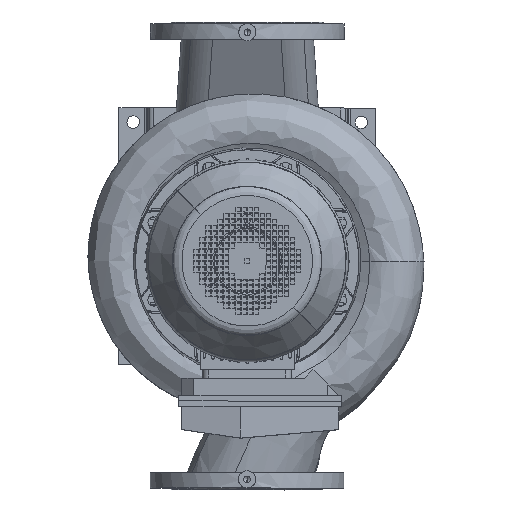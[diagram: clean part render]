
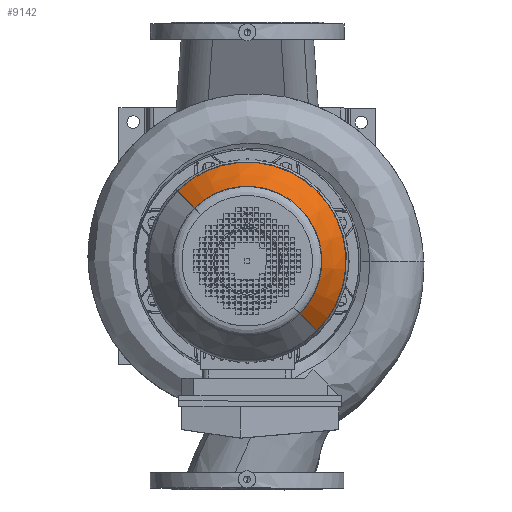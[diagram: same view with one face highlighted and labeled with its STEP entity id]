
A CAD part, top view. The second image highlights one B-rep face of the part: STEP entity #9142.
In plain terms, the highlighted conical face has half-angle 34.992 degrees and reference radius 125 mm.
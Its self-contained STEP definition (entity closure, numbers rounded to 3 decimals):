
#9142=ADVANCED_FACE('',(#22120),#22121,.T.);
#10838=EDGE_CURVE('',#25083,#25084,#25085,.T.);
#10840=EDGE_CURVE('',#25087,#25088,#25089,.T.);
#22120=FACE_OUTER_BOUND('',#41288,.T.);
#22121=CONICAL_SURFACE('',#41289,125.0,0.611);
#25083=VERTEX_POINT('',#44256);
#25084=VERTEX_POINT('',#44257);
#25085=CIRCLE('',#44258,173.885);
#25087=VERTEX_POINT('',#44261);
#25088=VERTEX_POINT('',#44262);
#25089=CIRCLE('',#44263,130.972);
#41288=EDGE_LOOP('',(#71022,#71023,#71024,#71025));
#41289=AXIS2_PLACEMENT_3D('',#71026,#71027,#71028);
#44256=CARTESIAN_POINT('',(173.885,0.,130.165));
#44257=CARTESIAN_POINT('',(-173.885,0.,130.165));
#44258=AXIS2_PLACEMENT_3D('',#79477,#79478,#79479);
#44261=CARTESIAN_POINT('',(-130.972,0.,191.469));
#44262=CARTESIAN_POINT('',(130.972,0.0,191.469));
#44263=AXIS2_PLACEMENT_3D('',#79480,#79481,#79482);
#71022=ORIENTED_EDGE('',*,*,#89271,.F.);
#71023=ORIENTED_EDGE('',*,*,#10838,.F.);
#71024=ORIENTED_EDGE('',*,*,#89272,.F.);
#71025=ORIENTED_EDGE('',*,*,#10840,.F.);
#71026=CARTESIAN_POINT('',(0.0,0.0,200.0));
#71027=DIRECTION('',(-0.0,-0.0,-1.0));
#71028=DIRECTION('',(-1.0,0.0,0.0));
#79477=CARTESIAN_POINT('',(0.0,0.0,130.165));
#79478=DIRECTION('',(0.0,0.0,-1.0));
#79479=DIRECTION('',(1.0,0.,0.0));
#79480=CARTESIAN_POINT('',(0.0,0.0,191.469));
#79481=DIRECTION('',(0.0,0.0,1.0));
#79482=DIRECTION('',(1.0,0.0,0.0));
#89271=EDGE_CURVE('',#25084,#25087,#96431,.T.);
#89272=EDGE_CURVE('',#25088,#25083,#96432,.T.);
#96431=LINE('',#106721,#106722);
#96432=LINE('',#106723,#106724);
#106721=CARTESIAN_POINT('',(-125.0,0.,200.0));
#106722=VECTOR('',#115760,1.0);
#106723=CARTESIAN_POINT('',(125.0,0.,200.0));
#106724=VECTOR('',#115761,1.0);
#115760=DIRECTION('',(0.573,0.,0.819));
#115761=DIRECTION('',(0.573,0.,-0.819));
